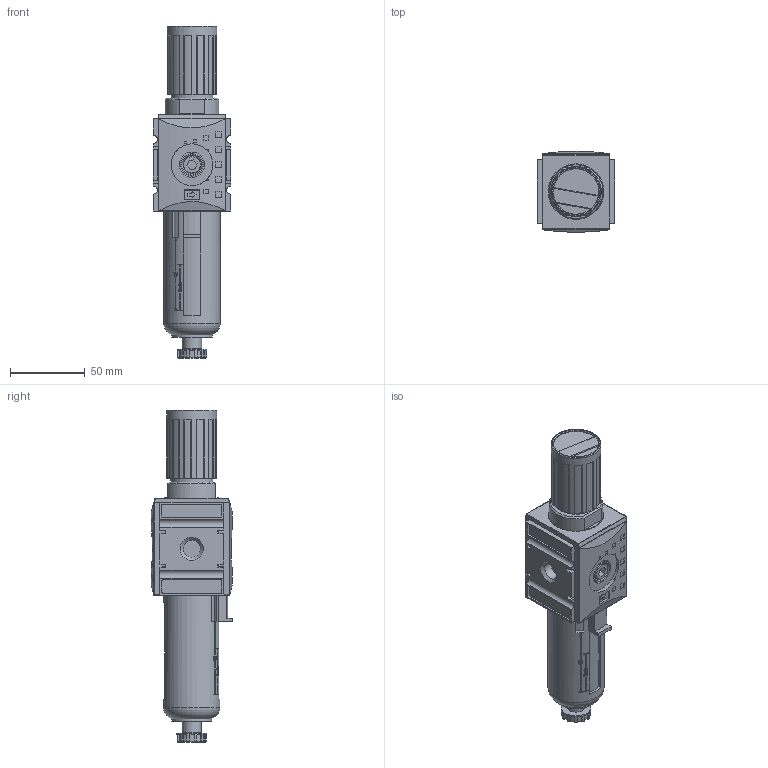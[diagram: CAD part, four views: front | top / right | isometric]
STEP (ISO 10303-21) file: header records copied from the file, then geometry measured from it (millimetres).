
FILE_DESCRIPTION((''),'2;1');
FILE_NAME('K:\ZEICHNG\Kunden Modelle\FUTURA Steps\BG1\KFRG-114.stp','2010-02-22T10:44:43',('DDruske'),(''),'Autodesk Inventor 2009','Autodesk Inventor 2009','');
FILE_SCHEMA(('AUTOMOTIVE_DESIGN { 1 0 10303 214 1 1 1 1 }'));
Length unit declared in the file: millimetre
Products named in the file (1): Bauteil5
Bounding box: 52 x 54.5 x 222.5 mm (x, y, z)
Volume: 294138.6 mm3; surface area: 50786.1 mm2
Topology: 1 solids, 3 shells, 806 faces, 2183 edges, 1429 vertices
Faces by surface type: plane 410, cylinder 233, bspline 111, torus 40, cone 8, sphere 4
Full cylindrical faces by diameter (mm): 10 x1, 11.445 x1, 11.45 x1, 12 x1, 13 x1, 15.1 x1, 16.8 x3, 20 x1, 27 x1, 28 x3, 33.5 x1, 35 x1, 36 x1, 37.8 x1
Entity records: 28212 total; most frequent: CARTESIAN_POINT 7572, ORIENTED_EDGE 4264, DIRECTION 3890, EDGE_CURVE 2132, VERTEX_POINT 1415, AXIS2_PLACEMENT_3D 1364, VECTOR 1162, LINE 1162
